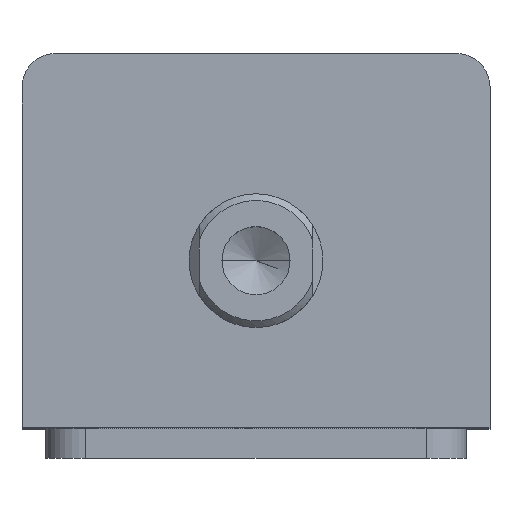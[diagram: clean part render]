
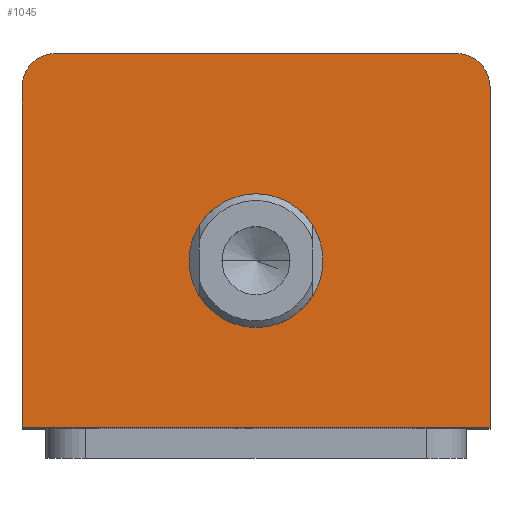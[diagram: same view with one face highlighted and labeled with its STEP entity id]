
A CAD part, top view. The second image highlights one B-rep face of the part: STEP entity #1045.
In plain terms, the highlighted planar face has unit normal (0, 0, 1).
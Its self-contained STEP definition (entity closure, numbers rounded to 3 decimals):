
#169 = EDGE_CURVE ( 'NONE', #592, #623, #2879, .T. ) ;
#202 = EDGE_CURVE ( 'NONE', #596, #601, #2922, .T. ) ;
#222 = EDGE_CURVE ( 'NONE', #639, #480, #2950, .T. ) ;
#230 = EDGE_CURVE ( 'NONE', #613, #498, #2954, .T. ) ;
#245 = EDGE_CURVE ( 'NONE', #480, #596, #2997, .T. ) ;
#262 = EDGE_CURVE ( 'NONE', #601, #613, #3025, .T. ) ;
#278 = EDGE_CURVE ( 'NONE', #498, #639, #3049, .T. ) ;
#303 = EDGE_CURVE ( 'NONE', #623, #592, #2552, .T. ) ;
#347 = AXIS2_PLACEMENT_3D ( 'NONE', #1920, #1919, #1917 ) ;
#438 = AXIS2_PLACEMENT_3D ( 'NONE', #2234, #2229, #2227 ) ;
#466 = AXIS2_PLACEMENT_3D ( 'NONE', #1809, #1697, #1695 ) ;
#480 = VERTEX_POINT ( 'NONE', #2504 ) ;
#498 = VERTEX_POINT ( 'NONE', #2483 ) ;
#592 = VERTEX_POINT ( 'NONE', #2268 ) ;
#596 = VERTEX_POINT ( 'NONE', #2256 ) ;
#601 = VERTEX_POINT ( 'NONE', #2261 ) ;
#607 = AXIS2_PLACEMENT_3D ( 'NONE', #794, #792, #791 ) ;
#613 = VERTEX_POINT ( 'NONE', #2247 ) ;
#623 = VERTEX_POINT ( 'NONE', #2209 ) ;
#639 = VERTEX_POINT ( 'NONE', #2191 ) ;
#702 = EDGE_LOOP ( 'NONE', ( #1544, #1543, #1539, #1538, #1535, #1534 ) ) ;
#770 = AXIS2_PLACEMENT_3D ( 'NONE', #1671, #1670, #1669 ) ;
#791 = DIRECTION ( 'NONE',  ( 1., 0., 0. ) ) ;
#792 = DIRECTION ( 'NONE',  ( 0., 0., 1. ) ) ;
#794 = CARTESIAN_POINT ( 'NONE',  ( 0., -3., 124. ) ) ;
#1045 = ADVANCED_FACE ( 'NONE', ( #2671, #2679 ), #2231, .T. ) ;
#1534 = ORIENTED_EDGE ( 'NONE', *, *, #222, .T. ) ;
#1535 = ORIENTED_EDGE ( 'NONE', *, *, #278, .T. ) ;
#1538 = ORIENTED_EDGE ( 'NONE', *, *, #230, .T. ) ;
#1539 = ORIENTED_EDGE ( 'NONE', *, *, #262, .T. ) ;
#1543 = ORIENTED_EDGE ( 'NONE', *, *, #202, .T. ) ;
#1544 = ORIENTED_EDGE ( 'NONE', *, *, #245, .T. ) ;
#1546 = ORIENTED_EDGE ( 'NONE', *, *, #169, .F. ) ;
#1547 = ORIENTED_EDGE ( 'NONE', *, *, #303, .F. ) ;
#1669 = DIRECTION ( 'NONE',  ( 1., 0., 0. ) ) ;
#1670 = DIRECTION ( 'NONE',  ( 0., 0., 1. ) ) ;
#1671 = CARTESIAN_POINT ( 'NONE',  ( 0., -3., 124. ) ) ;
#1695 = DIRECTION ( 'NONE',  ( 1., 0., 0. ) ) ;
#1697 = DIRECTION ( 'NONE',  ( 0., 0., 1. ) ) ;
#1779 = DIRECTION ( 'NONE',  ( 0., -1., 0. ) ) ;
#1780 = CARTESIAN_POINT ( 'NONE',  ( -35., 28., 124. ) ) ;
#1809 = CARTESIAN_POINT ( 'NONE',  ( 30., 23., 124. ) ) ;
#1830 = DIRECTION ( 'NONE',  ( -1., 0., 0. ) ) ;
#1850 = CARTESIAN_POINT ( 'NONE',  ( -35., 28., 124. ) ) ;
#1877 = DIRECTION ( 'NONE',  ( 0., 1., 0. ) ) ;
#1879 = CARTESIAN_POINT ( 'NONE',  ( 35., 28., 124. ) ) ;
#1917 = DIRECTION ( 'NONE',  ( 1., 0., 0. ) ) ;
#1919 = DIRECTION ( 'NONE',  ( 0., 0., 1. ) ) ;
#1920 = CARTESIAN_POINT ( 'NONE',  ( -30., 23., 124. ) ) ;
#1948 = DIRECTION ( 'NONE',  ( 1., 0., 0. ) ) ;
#1962 = CARTESIAN_POINT ( 'NONE',  ( -35., -28., 124. ) ) ;
#2191 = CARTESIAN_POINT ( 'NONE',  ( -35., -28., 124. ) ) ;
#2209 = CARTESIAN_POINT ( 'NONE',  ( 10., -3., 124. ) ) ;
#2227 = DIRECTION ( 'NONE',  ( 1., 0., 0. ) ) ;
#2229 = DIRECTION ( 'NONE',  ( 0., 0., 1. ) ) ;
#2231 = PLANE ( 'NONE',  #438 ) ;
#2234 = CARTESIAN_POINT ( 'NONE',  ( 0., 0., 124. ) ) ;
#2247 = CARTESIAN_POINT ( 'NONE',  ( -30., 28., 124. ) ) ;
#2256 = CARTESIAN_POINT ( 'NONE',  ( 35., 23., 124. ) ) ;
#2261 = CARTESIAN_POINT ( 'NONE',  ( 30., 28., 124. ) ) ;
#2268 = CARTESIAN_POINT ( 'NONE',  ( -10., -3., 124. ) ) ;
#2483 = CARTESIAN_POINT ( 'NONE',  ( -35., 23., 124. ) ) ;
#2504 = CARTESIAN_POINT ( 'NONE',  ( 35., -28., 124. ) ) ;
#2552 = CIRCLE ( 'NONE', #770, 10. ) ;
#2671 = FACE_BOUND ( 'NONE', #2769, .T. ) ;
#2679 = FACE_OUTER_BOUND ( 'NONE', #702, .T. ) ;
#2769 = EDGE_LOOP ( 'NONE', ( #1547, #1546 ) ) ;
#2879 = CIRCLE ( 'NONE', #607, 10. ) ;
#2922 = CIRCLE ( 'NONE', #466, 5. ) ;
#2950 = LINE ( 'NONE', #1962, #2957 ) ;
#2954 = CIRCLE ( 'NONE', #347, 5. ) ;
#2957 = VECTOR ( 'NONE', #1948, 1000. ) ;
#2997 = LINE ( 'NONE', #1879, #3000 ) ;
#3000 = VECTOR ( 'NONE', #1877, 1000. ) ;
#3025 = LINE ( 'NONE', #1850, #3027 ) ;
#3027 = VECTOR ( 'NONE', #1830, 1000. ) ;
#3049 = LINE ( 'NONE', #1780, #3051 ) ;
#3051 = VECTOR ( 'NONE', #1779, 1000. ) ;
